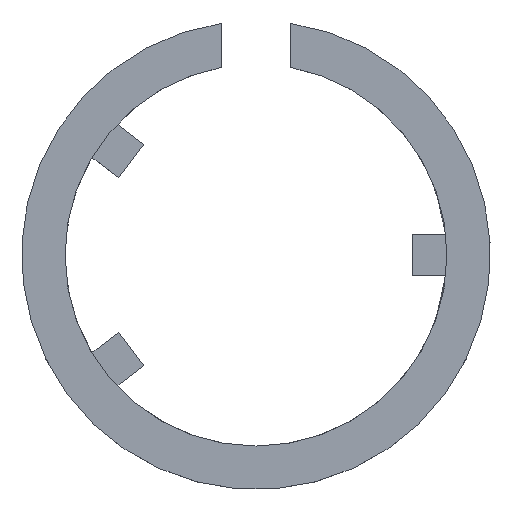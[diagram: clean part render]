
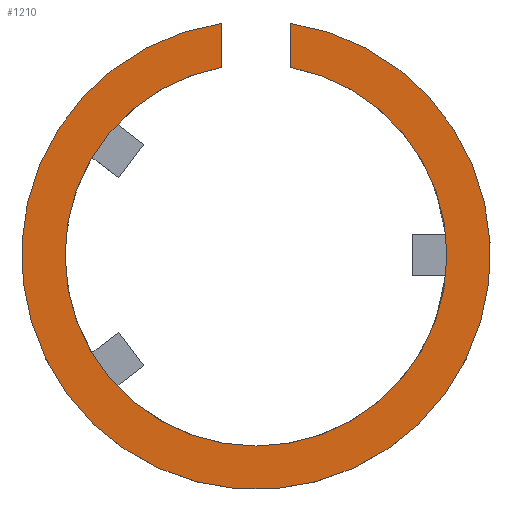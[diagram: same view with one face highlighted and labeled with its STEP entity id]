
A CAD part, top view. The second image highlights one B-rep face of the part: STEP entity #1210.
In plain terms, the highlighted planar face has unit normal (0, 0, 1).
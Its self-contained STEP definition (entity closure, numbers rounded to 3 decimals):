
#33 = CYLINDRICAL_SURFACE('',#34,27.);
#34 = AXIS2_PLACEMENT_3D('',#35,#36,#37);
#35 = CARTESIAN_POINT('',(0.,0.,0.));
#36 = DIRECTION('',(-0.,-0.,-1.));
#37 = DIRECTION('',(1.,0.,0.));
#58 = VERTEX_POINT('',#59);
#59 = CARTESIAN_POINT('',(-4.,26.702,3.2));
#72 = PLANE('',#73);
#73 = AXIS2_PLACEMENT_3D('',#74,#75,#76);
#74 = CARTESIAN_POINT('',(-4.,20.,0.));
#75 = DIRECTION('',(1.,0.,0.));
#76 = DIRECTION('',(0.,0.,1.));
#83 = EDGE_CURVE('',#84,#58,#86,.T.);
#84 = VERTEX_POINT('',#85);
#85 = CARTESIAN_POINT('',(4.,26.702,3.2));
#86 = SURFACE_CURVE('',#87,(#92,#99),.PCURVE_S1.);
#87 = CIRCLE('',#88,27.);
#88 = AXIS2_PLACEMENT_3D('',#89,#90,#91);
#89 = CARTESIAN_POINT('',(0.,0.,3.2));
#90 = DIRECTION('',(0.,0.,-1.));
#91 = DIRECTION('',(0.148,0.989,0.));
#92 = PCURVE('',#33,#93);
#93 = DEFINITIONAL_REPRESENTATION('',(#94),#98);
#94 = LINE('',#95,#96);
#95 = CARTESIAN_POINT('',(-7.705,-3.2));
#96 = VECTOR('',#97,1.);
#97 = DIRECTION('',(1.,-0.));
#98 = ( GEOMETRIC_REPRESENTATION_CONTEXT(2) 
PARAMETRIC_REPRESENTATION_CONTEXT() REPRESENTATION_CONTEXT('2D SPACE',''
  ) );
#99 = PCURVE('',#100,#105);
#100 = PLANE('',#101);
#101 = AXIS2_PLACEMENT_3D('',#102,#103,#104);
#102 = CARTESIAN_POINT('',(0.,0.,3.2));
#103 = DIRECTION('',(0.,0.,1.));
#104 = DIRECTION('',(1.,0.,-0.));
#105 = DEFINITIONAL_REPRESENTATION('',(#106),#114);
#106 = ( BOUNDED_CURVE() B_SPLINE_CURVE(2,(#107,#108,#109,#110,#111,#112
,#113),.UNSPECIFIED.,.T.,.F.) B_SPLINE_CURVE_WITH_KNOTS((1,2,2,2,2,1),(
    -2.094,0.,2.094,4.189,6.283,
8.378),.UNSPECIFIED.) CURVE() GEOMETRIC_REPRESENTATION_ITEM() 
RATIONAL_B_SPLINE_CURVE((1.,0.5,1.,0.5,1.,0.5,1.)) REPRESENTATION_ITEM(
  '') );
#107 = CARTESIAN_POINT('',(4.,26.702));
#108 = CARTESIAN_POINT('',(50.249,19.774));
#109 = CARTESIAN_POINT('',(21.125,-16.815));
#110 = CARTESIAN_POINT('',(-8.,-53.404));
#111 = CARTESIAN_POINT('',(-25.125,-9.887));
#112 = CARTESIAN_POINT('',(-42.249,33.63));
#113 = CARTESIAN_POINT('',(4.,26.702));
#114 = ( GEOMETRIC_REPRESENTATION_CONTEXT(2) 
PARAMETRIC_REPRESENTATION_CONTEXT() REPRESENTATION_CONTEXT('2D SPACE',''
  ) );
#129 = PLANE('',#130);
#130 = AXIS2_PLACEMENT_3D('',#131,#132,#133);
#131 = CARTESIAN_POINT('',(4.,20.,0.));
#132 = DIRECTION('',(1.,0.,0.));
#133 = DIRECTION('',(0.,0.,1.));
#144 = VERTEX_POINT('',#145);
#145 = CARTESIAN_POINT('',(4.,21.633,3.2));
#160 = CYLINDRICAL_SURFACE('',#161,22.);
#161 = AXIS2_PLACEMENT_3D('',#162,#163,#164);
#162 = CARTESIAN_POINT('',(0.,0.,0.));
#163 = DIRECTION('',(-0.,-0.,-1.));
#164 = DIRECTION('',(1.,0.,0.));
#193 = EDGE_CURVE('',#144,#84,#194,.T.);
#194 = SURFACE_CURVE('',#195,(#199,#205),.PCURVE_S1.);
#195 = LINE('',#196,#197);
#196 = CARTESIAN_POINT('',(4.,10.,3.2));
#197 = VECTOR('',#198,1.);
#198 = DIRECTION('',(0.,1.,0.));
#199 = PCURVE('',#129,#200);
#200 = DEFINITIONAL_REPRESENTATION('',(#201),#204);
#201 = B_SPLINE_CURVE_WITH_KNOTS('',1,(#202,#203),.UNSPECIFIED.,.F.,.F.,
  (2,2),(10.,17.),.PIECEWISE_BEZIER_KNOTS.);
#202 = CARTESIAN_POINT('',(3.2,0.));
#203 = CARTESIAN_POINT('',(3.2,-7.));
#204 = ( GEOMETRIC_REPRESENTATION_CONTEXT(2) 
PARAMETRIC_REPRESENTATION_CONTEXT() REPRESENTATION_CONTEXT('2D SPACE',''
  ) );
#205 = PCURVE('',#100,#206);
#206 = DEFINITIONAL_REPRESENTATION('',(#207),#210);
#207 = B_SPLINE_CURVE_WITH_KNOTS('',1,(#208,#209),.UNSPECIFIED.,.F.,.F.,
  (2,2),(10.,17.),.PIECEWISE_BEZIER_KNOTS.);
#208 = CARTESIAN_POINT('',(4.,20.));
#209 = CARTESIAN_POINT('',(4.,27.));
#210 = ( GEOMETRIC_REPRESENTATION_CONTEXT(2) 
PARAMETRIC_REPRESENTATION_CONTEXT() REPRESENTATION_CONTEXT('2D SPACE',''
  ) );
#215 = EDGE_CURVE('',#144,#216,#218,.T.);
#216 = VERTEX_POINT('',#217);
#217 = CARTESIAN_POINT('',(-4.,21.633,3.2));
#218 = SURFACE_CURVE('',#219,(#224,#231),.PCURVE_S1.);
#219 = CIRCLE('',#220,22.);
#220 = AXIS2_PLACEMENT_3D('',#221,#222,#223);
#221 = CARTESIAN_POINT('',(0.,0.,3.2));
#222 = DIRECTION('',(0.,0.,-1.));
#223 = DIRECTION('',(0.182,0.983,0.));
#224 = PCURVE('',#160,#225);
#225 = DEFINITIONAL_REPRESENTATION('',(#226),#230);
#226 = LINE('',#227,#228);
#227 = CARTESIAN_POINT('',(-7.671,-3.2));
#228 = VECTOR('',#229,1.);
#229 = DIRECTION('',(1.,-0.));
#230 = ( GEOMETRIC_REPRESENTATION_CONTEXT(2) 
PARAMETRIC_REPRESENTATION_CONTEXT() REPRESENTATION_CONTEXT('2D SPACE',''
  ) );
#231 = PCURVE('',#100,#232);
#232 = DEFINITIONAL_REPRESENTATION('',(#233),#241);
#233 = ( BOUNDED_CURVE() B_SPLINE_CURVE(2,(#234,#235,#236,#237,#238,#239
,#240),.UNSPECIFIED.,.T.,.F.) B_SPLINE_CURVE_WITH_KNOTS((1,2,2,2,2,1),(
    -2.094,0.,2.094,4.189,6.283,
8.378),.UNSPECIFIED.) CURVE() GEOMETRIC_REPRESENTATION_ITEM() 
RATIONAL_B_SPLINE_CURVE((1.,0.5,1.,0.5,1.,0.5,1.)) REPRESENTATION_ITEM(
  '') );
#234 = CARTESIAN_POINT('',(4.,21.633));
#235 = CARTESIAN_POINT('',(41.47,14.705));
#236 = CARTESIAN_POINT('',(16.735,-14.281));
#237 = CARTESIAN_POINT('',(-8.,-43.267));
#238 = CARTESIAN_POINT('',(-20.735,-7.353));
#239 = CARTESIAN_POINT('',(-33.47,28.562));
#240 = CARTESIAN_POINT('',(4.,21.633));
#241 = ( GEOMETRIC_REPRESENTATION_CONTEXT(2) 
PARAMETRIC_REPRESENTATION_CONTEXT() REPRESENTATION_CONTEXT('2D SPACE',''
  ) );
#1210 = ADVANCED_FACE('',(#1211),#100,.T.);
#1211 = FACE_BOUND('',#1212,.T.);
#1212 = EDGE_LOOP('',(#1213,#1232,#1233,#1234));
#1213 = ORIENTED_EDGE('',*,*,#1214,.T.);
#1214 = EDGE_CURVE('',#216,#58,#1215,.T.);
#1215 = SURFACE_CURVE('',#1216,(#1220,#1226),.PCURVE_S1.);
#1216 = LINE('',#1217,#1218);
#1217 = CARTESIAN_POINT('',(-4.,10.,3.2));
#1218 = VECTOR('',#1219,1.);
#1219 = DIRECTION('',(0.,1.,0.));
#1220 = PCURVE('',#100,#1221);
#1221 = DEFINITIONAL_REPRESENTATION('',(#1222),#1225);
#1222 = B_SPLINE_CURVE_WITH_KNOTS('',1,(#1223,#1224),.UNSPECIFIED.,.F.,
  .F.,(2,2),(10.,17.),.PIECEWISE_BEZIER_KNOTS.);
#1223 = CARTESIAN_POINT('',(-4.,20.));
#1224 = CARTESIAN_POINT('',(-4.,27.));
#1225 = ( GEOMETRIC_REPRESENTATION_CONTEXT(2) 
PARAMETRIC_REPRESENTATION_CONTEXT() REPRESENTATION_CONTEXT('2D SPACE',''
  ) );
#1226 = PCURVE('',#72,#1227);
#1227 = DEFINITIONAL_REPRESENTATION('',(#1228),#1231);
#1228 = B_SPLINE_CURVE_WITH_KNOTS('',1,(#1229,#1230),.UNSPECIFIED.,.F.,
  .F.,(2,2),(10.,17.),.PIECEWISE_BEZIER_KNOTS.);
#1229 = CARTESIAN_POINT('',(3.2,0.));
#1230 = CARTESIAN_POINT('',(3.2,-7.));
#1231 = ( GEOMETRIC_REPRESENTATION_CONTEXT(2) 
PARAMETRIC_REPRESENTATION_CONTEXT() REPRESENTATION_CONTEXT('2D SPACE',''
  ) );
#1232 = ORIENTED_EDGE('',*,*,#83,.F.);
#1233 = ORIENTED_EDGE('',*,*,#193,.F.);
#1234 = ORIENTED_EDGE('',*,*,#215,.T.);
